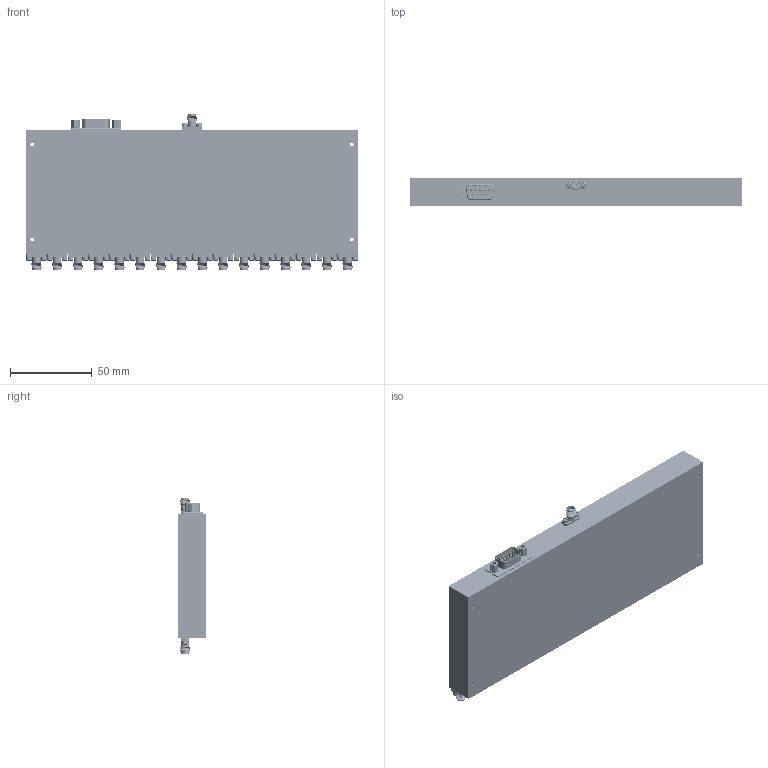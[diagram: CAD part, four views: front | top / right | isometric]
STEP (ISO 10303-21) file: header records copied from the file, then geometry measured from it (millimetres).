
FILE_DESCRIPTION (( 'STEP AP214' ), '1' );
FILE_NAME ('P16T-100M27G-100-T-DEC.STEP', '2024-01-31T14:34:34', ( '' ), ( '' ), 'SwSTEP 2.0', 'SolidWorks 2023', '' );
FILE_SCHEMA (( 'AUTOMOTIVE_DESIGN' ));
Length unit declared in the file: inch
Products named in the file (1): P16T-100M27G-100-T-DEC
Bounding box: 203.2 x 17.2 x 95.25 mm (x, y, z)
Volume: 272118.9 mm3; surface area: 80331.5 mm2
Topology: 135 solids, 135 shells, 4324 faces, 11090 edges, 7356 vertices
Faces by surface type: plane 1598, cylinder 1257, torus 810, cone 338, bspline 244, sphere 77
Entity records: 217801 total; most frequent: CARTESIAN_POINT 55261, DIRECTION 22088, ORIENTED_EDGE 21982, EDGE_CURVE 10991, AXIS2_PLACEMENT_3D 8909, VERTEX_POINT 7338, CIRCLE 4828, EDGE_LOOP 4805
